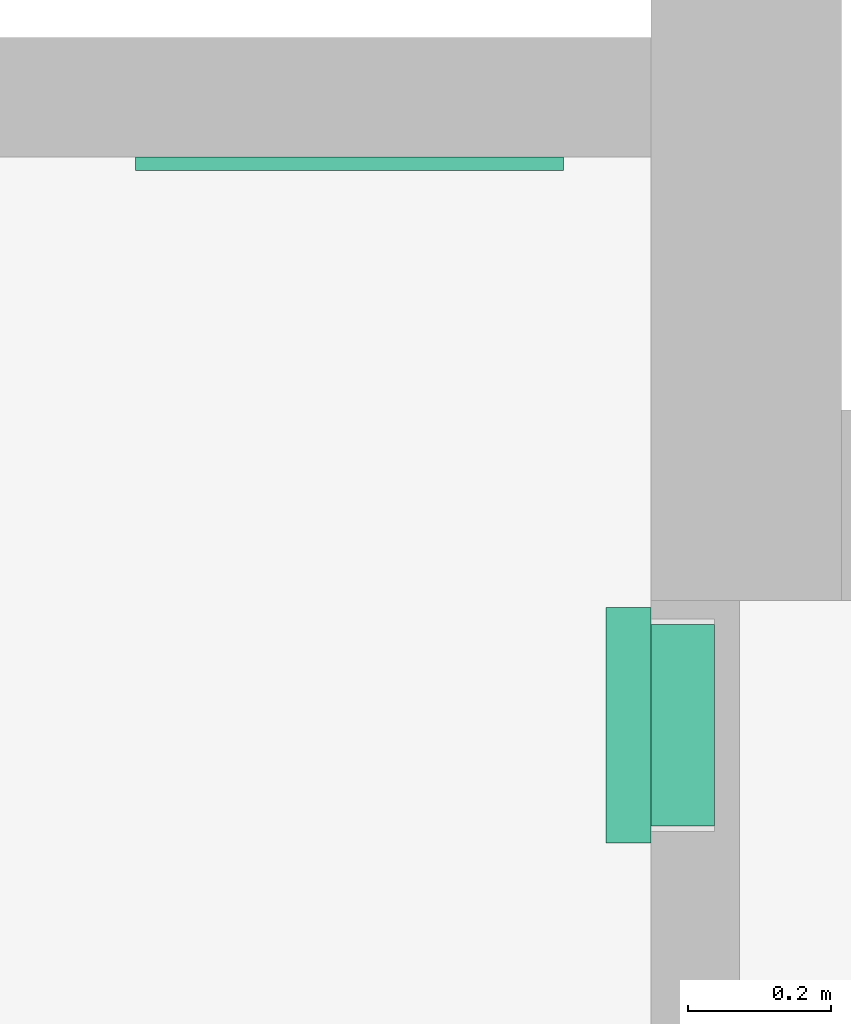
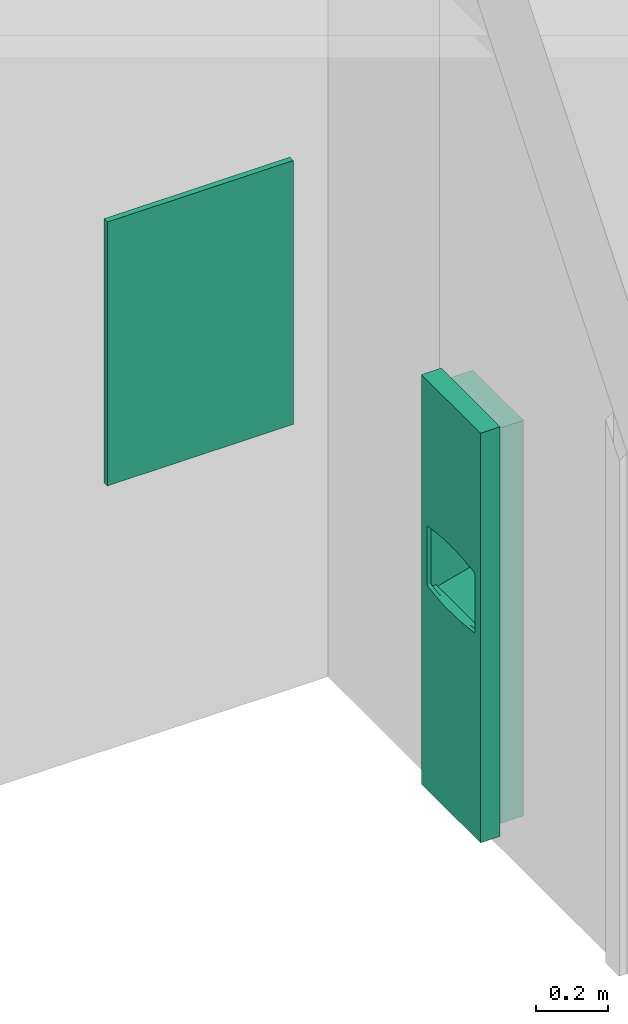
# One storey, part 65 of 82: 2 flow terminals.
"""IFC2X3 building model written with IfcOpenShell, lengths in metres."""

import ifcopenshell
import ifcopenshell.guid

model = None  # the IFC model being written
_history = None  # IfcOwnerHistory: only IFC2X3 demands one
_inside = {}  # id of a spatial element -> (the spatial element, [elements in it])
_under = {}  # id of a project, library or spatial element -> (it, [spatial elements below it])
_declared = {}  # id of a project -> (the project, [libraries it declares])
_typed = {}  # id of a type object -> (the type object, [elements of that type])
_made_of = {}  # id of a material, layer set ... -> (it, [elements and type objects made of it])


def new_model(schema):
    """Start an empty IFC model of exactly this schema.

    Asked for "IFC4X3", IfcOpenShell would pick the latest addendum, in which some entities
    have other attributes; the version numbers below select the first issue.
    IFC2X3 requires an IfcOwnerHistory on every rooted entity: one is made here for all.
    """
    global model, _history
    if schema == "IFC4X3":
        model = ifcopenshell.file(schema_version=(4, 3, 0, 0))
    else:
        model = ifcopenshell.file(schema=schema)
    _inside.clear()
    _under.clear()
    _declared.clear()
    _typed.clear()
    _made_of.clear()
    _history = None
    if model.schema == "IFC2X3":
        org = make("IfcOrganization", Name="unknown")
        user = make(
            "IfcPersonAndOrganization",
            ThePerson=make("IfcPerson", FamilyName="unknown"),
            TheOrganization=org,
        )
        app = make(
            "IfcApplication",
            ApplicationDeveloper=org,
            Version="unknown",
            ApplicationFullName="unknown",
            ApplicationIdentifier="unknown",
        )
        _history = make(
            "IfcOwnerHistory",
            OwningUser=user,
            OwningApplication=app,
            ChangeAction="ADDED",
            CreationDate=0,
        )
    return model


def make(cls, **values):
    """One entity of the class cls with the attributes given. An attribute that is None is left unset."""
    return model.create_entity(
        cls, **{name: value for name, value in values.items() if value is not None}
    )


def entity(cls, *values):
    """Any entity or typed value of the class cls, its attributes in the order of the schema. None: left unset."""
    e = model.create_entity(cls)
    for i, value in enumerate(values):
        if value is not None:
            e[i] = value
    return e


def rooted(cls, **values):
    """An entity with a GlobalId (a new one), such as an element, a storey or a relation."""
    return make(cls, GlobalId=ifcopenshell.guid.new(), OwnerHistory=_history, **values)


def si_unit(unit_type, name, prefix=None):
    """IfcSIUnit, for example si_unit("LENGTHUNIT", "METRE", prefix="MILLI")."""
    return make("IfcSIUnit", UnitType=unit_type, Prefix=prefix, Name=name)


def converted_unit(unit_type, name, factor, base, dimensions=None, offset=None):
    """IfcConversionBasedUnit, such as the inch: factor (a typed value) times the base unit."""
    return make(
        "IfcConversionBasedUnit"
        if offset is None
        else "IfcConversionBasedUnitWithOffset",
        ConversionOffset=offset,
        Dimensions=None
        if dimensions is None
        else entity("IfcDimensionalExponents", *dimensions),
        UnitType=unit_type,
        Name=name,
        ConversionFactor=make(
            "IfcMeasureWithUnit", ValueComponent=factor, UnitComponent=base
        ),
    )


def assignment(units):
    """IfcUnitAssignment: the units of a project."""
    return None if units is None else make("IfcUnitAssignment", Units=units)


def point(xyz):
    """IfcCartesianPoint."""
    return None if xyz is None else make("IfcCartesianPoint", Coordinates=xyz)


def direction(xyz):
    """IfcDirection."""
    return None if xyz is None else make("IfcDirection", DirectionRatios=xyz)


def frame(location, z_axis=None, x_axis=None):
    """IfcAxis2Placement3D, a coordinate frame: its origin and axes. An axis left out is left unset."""
    return make(
        "IfcAxis2Placement3D",
        Location=point(location),
        Axis=direction(z_axis),
        RefDirection=direction(x_axis),
    )


def frame_2d(location, x_axis=None):
    """IfcAxis2Placement2D, a coordinate frame in the plane: its origin and x axis."""
    return make(
        "IfcAxis2Placement2D", Location=point(location), RefDirection=direction(x_axis)
    )


def origin():
    """The frame at (0, 0, 0) with its axes left unset."""
    return frame((0.0, 0.0, 0.0))


def origin_2d_with_axis():
    """The frame at (0, 0) in the plane with the x axis (1, 0) written out."""
    return frame_2d((0.0, 0.0), x_axis=(1.0, 0.0))


def place(relative_to, where):
    """IfcLocalPlacement: puts the frame where relative to a parent placement (None: the world)."""
    return make(
        "IfcLocalPlacement", PlacementRelTo=relative_to, RelativePlacement=where
    )


def context(
    kind, dimensions, precision=None, world=None, true_north=None, identifier=None
):
    """IfcGeometricRepresentationContext, for example the 3D "Model" context."""
    return make(
        "IfcGeometricRepresentationContext",
        ContextIdentifier=identifier,
        ContextType=kind,
        CoordinateSpaceDimension=dimensions,
        Precision=precision,
        WorldCoordinateSystem=world,
        TrueNorth=true_north,
    )


def project(units=None, contexts=None):
    """IfcProject with its units and contexts."""
    return rooted(
        "IfcProject",
        Name="project",
        RepresentationContexts=contexts,
        UnitsInContext=assignment(units),
    )


def spatial(cls, under=None, at=None, **own):
    """A site, building, storey or space (cls), placed at a placement, below another one or the project."""
    s = rooted(cls, ObjectPlacement=at, **own)
    if under is not None:
        _under.setdefault(under.id(), (under, []))[1].append(s)
    return s


def profile(cls, at=None, kind="AREA", **sizes):
    """A parametric profile (cls). Its sizes go by their IFC names, for example OverallWidth=200.0."""
    return make(cls, ProfileType=kind, Position=at, **sizes)


def rectangle(**sizes):
    """IfcRectangleProfileDef."""
    return profile("IfcRectangleProfileDef", **sizes)


def extrude(swept, where, along, depth):
    """IfcExtrudedAreaSolid: the profile swept, set in the frame where, extruded along a direction by depth."""
    return make(
        "IfcExtrudedAreaSolid",
        SweptArea=swept,
        Position=where,
        ExtrudedDirection=direction(along),
        Depth=depth,
    )


def faces_of(points, faces, orient=None, outer=None):
    """IfcFace entities. A face is a list of loops; a loop is a list of indices into points, from 0.

    orient and outer hold one flag for each loop. By default every Orientation is true, the
    first loop of a face is its IfcFaceOuterBound and the others are IfcFaceBound.
    """
    made = []
    for i, loops in enumerate(faces):
        bounds = []
        for j, loop in enumerate(loops):
            is_outer = j == 0 if outer is None else outer[i][j]
            bounds.append(
                make(
                    "IfcFaceOuterBound" if is_outer else "IfcFaceBound",
                    Bound=make("IfcPolyLoop", Polygon=[points[k] for k in loop]),
                    Orientation=True if orient is None else orient[i][j],
                )
            )
        made.append(make("IfcFace", Bounds=bounds))
    return made


def face_set(faces, orient=None, outer=None):
    """The faces of one IfcConnectedFaceSet. surface_model builds it on its shared points."""
    return ("IfcConnectedFaceSet", faces, orient, outer)


def surface_model(cls, points, shells):
    """IfcFaceBasedSurfaceModel or IfcShellBasedSurfaceModel (cls): surfaces that need not close."""
    shared = [point(p) for p in points]
    made = [make(c, CfsFaces=faces_of(shared, fs, o, b)) for c, fs, o, b in shells]
    if cls == "IfcFaceBasedSurfaceModel":
        return make(cls, FbsmFaces=made)
    return make(cls, SbsmBoundary=made)


def shape(context_of_items, identifier, shape_type, items):
    """IfcShapeRepresentation: the items that make up one representation, for example the "Body"."""
    return make(
        "IfcShapeRepresentation",
        ContextOfItems=context_of_items,
        RepresentationIdentifier=identifier,
        RepresentationType=shape_type,
        Items=items,
    )


def source(mapping_origin, context_of_items, identifier, shape_type, items):
    """IfcRepresentationMap: a shape defined once, which mapped items show again and again."""
    return make(
        "IfcRepresentationMap",
        MappingOrigin=mapping_origin,
        MappedRepresentation=shape(context_of_items, identifier, shape_type, items),
    )


def transform(
    local_origin,
    x_axis=None,
    y_axis=None,
    z_axis=None,
    scale=None,
    scale2=None,
    scale3=None,
    uniform=True,
):
    """IfcCartesianTransformationOperator3D, or its non-uniform kind. x_axis, y_axis, z_axis: its Axis1, 2, 3."""
    if uniform:
        return make(
            "IfcCartesianTransformationOperator3D",
            Axis1=direction(x_axis),
            Axis2=direction(y_axis),
            LocalOrigin=point(local_origin),
            Scale=scale,
            Axis3=direction(z_axis),
        )
    return make(
        "IfcCartesianTransformationOperator3DnonUniform",
        Axis1=direction(x_axis),
        Axis2=direction(y_axis),
        LocalOrigin=point(local_origin),
        Scale=scale,
        Axis3=direction(z_axis),
        Scale2=scale2,
        Scale3=scale3,
    )


def mapped(mapping_source, mapping_target):
    """IfcMappedItem: shows the shape of a source again, moved by a transform."""
    return make(
        "IfcMappedItem", MappingSource=mapping_source, MappingTarget=mapping_target
    )


def made_of(thing, what):
    """Note that an element or type object is made of a material, layer set ...; save() writes the relation."""
    if what is not None:
        _made_of.setdefault(what.id(), (what, []))[1].append(thing)
    return thing


def type_object(cls, material=None, **own):
    """A type object (cls), such as IfcWallType, which elements share."""
    return made_of(rooted(cls, **own), material)


def type_shapes(of_type, sources):
    """Give a type object the sources (RepresentationMaps) that its elements show as mapped items."""
    of_type.RepresentationMaps = sources


def element(
    cls,
    number,
    at=None,
    inside=None,
    cuts=None,
    type_object=None,
    material=None,
    context=None,
    identifier="Body",
    shape_type=None,
    held_by="IfcProductDefinitionShape",
    body=None,
    shapes=None,
    **own,
):
    """One element of the class cls, such as IfcWall. Its Tag is "e" and its number.

    at: its placement. inside: the storey or other place that contains it. cuts: it is an
    opening in that element (IfcRelVoidsElement). A single representation is given by context,
    identifier, shape_type and body (its items); several are given by shapes. held_by: the class
    of the entity that holds the representations. save() writes the other relations.
    """
    e = rooted(cls, Tag="e%d" % number, ObjectPlacement=at, **own)
    if body is not None:
        shapes = [shape(context, identifier, shape_type, body)]
    if shapes is not None:
        e.Representation = make(held_by, Representations=shapes)
    if inside is not None:
        _inside.setdefault(inside.id(), (inside, []))[1].append(e)
    if cuts is not None:
        rooted(
            "IfcRelVoidsElement", RelatingBuildingElement=cuts, RelatedOpeningElement=e
        )
    if type_object is not None:
        _typed.setdefault(type_object.id(), (type_object, []))[1].append(e)
    return made_of(e, material)


def aggregate(whole, parts):
    """IfcRelAggregates: a whole, such as a stair, and the parts it consists of."""
    return rooted("IfcRelAggregates", RelatingObject=whole, RelatedObjects=parts)


def save(model, path):
    """Write the relations noted so far, then the file.

    IfcRelAggregates (storeys below a building ...), IfcRelContainedInSpatialStructure (elements
    in a storey), IfcRelDefinesByType, IfcRelAssociatesMaterial and IfcRelDeclares: one each for
    every whole, place, type object, material and project.
    """
    for whole, parts in _under.values():
        aggregate(whole, parts)
    for where, things in _inside.values():
        rooted(
            "IfcRelContainedInSpatialStructure",
            RelatedElements=things,
            RelatingStructure=where,
        )
    for kind, things in _typed.values():
        rooted("IfcRelDefinesByType", RelatedObjects=things, RelatingType=kind)
    for what, things in _made_of.values():
        rooted("IfcRelAssociatesMaterial", RelatedObjects=things, RelatingMaterial=what)
    for by, libraries in _declared.values():
        rooted("IfcRelDeclares", RelatingContext=by, RelatedDefinitions=libraries)
    model.write(path)


model = new_model("IFC2X3")

# Units and contexts
model_context = context("Model", 3, precision=1e-09, world=origin())
plan_context = context("Plan", 3, precision=1e-09, world=origin())
ifc_project = project(units=[si_unit("LENGTHUNIT", "METRE"), si_unit("AREAUNIT", "SQUARE_METRE"), si_unit("VOLUMEUNIT", "CUBIC_METRE"), converted_unit("PLANEANGLEUNIT", "DEGREE", entity("IfcRatioMeasure", 0.01745329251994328), si_unit("PLANEANGLEUNIT", "RADIAN"), dimensions=[0, 0, 0, 0, 0, 0, 0]), si_unit("TIMEUNIT", "SECOND")], contexts=[model_context, plan_context])

# Site, building, storey, space
site_placement = place(None, origin())
site = spatial("IfcSite", under=ifc_project, at=site_placement, Name="Default", CompositionType="ELEMENT")
building_placement = place(site_placement, origin())
building = spatial("IfcBuilding", under=site, at=building_placement, CompositionType="ELEMENT")
storey_placement = place(building_placement, origin())
storey = spatial("IfcBuildingStorey", under=building, at=storey_placement, Name="First Floor", CompositionType="ELEMENT", Elevation=-3.531500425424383e-13)
space_placement = place(storey_placement, origin())
space = spatial("IfcSpace", under=storey, at=space_placement, Name="1C12", CompositionType="ELEMENT", InteriorOrExteriorSpace="INTERNAL")

# Flow terminals
sanitary_terminal_type_1 = type_object("IfcSanitaryTerminalType", Name="Semi-Recessed", PredefinedType="NOTDEFINED")
shared_shape_1 = source(origin(), model_context, "Body", "SurfaceModel", [
    surface_model("IfcFaceBasedSurfaceModel", [(0.3047999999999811, 1.371600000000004, 0.006350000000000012), (0.02539999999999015, 1.371600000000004, 0.006350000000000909), (0.02539999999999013, 0.02540000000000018, 0.006350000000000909), (0.3047999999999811, 0.02540000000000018, 0.006350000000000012), (0.3047999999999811, 1.371600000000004, 0.0), (0.02539999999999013, 1.371600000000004, 0.0), (0.02539999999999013, 0.02540000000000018, 0.0), (0.3047999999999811, 0.02540000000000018, 0.0), (0.3047999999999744, 0.8683625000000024, 0.0314087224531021), (0.304799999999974, 0.8683625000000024, 0.0), (0.304799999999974, 1.371600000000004, 0.0), (0.3047999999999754, 1.371600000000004, 0.1396999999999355), (0.3047999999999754, 0.9274310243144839, 0.139699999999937), (0.3047999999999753, 0.9028355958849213, 0.1191121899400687), (0.304799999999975, 0.8840898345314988, 0.09308548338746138), (0.3047999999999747, 0.8723562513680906, 0.06323391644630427), (0.02539999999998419, 0.8683625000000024, 0.03140872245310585), (0.02539999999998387, 0.8683625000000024, 0.0), (0.02539999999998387, 1.371600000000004, 0.0), (0.02539999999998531, 1.371600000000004, 0.1396999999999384), (0.02539999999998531, 0.9274310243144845, 0.1396999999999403), (0.02539999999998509, 0.9028355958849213, 0.1191121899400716), (0.02539999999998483, 0.8840898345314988, 0.09308548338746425), (0.02539999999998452, 0.8723562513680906, 0.06323391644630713), (0.1650999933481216, 0.8971245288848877, 0.1125374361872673), (0.244423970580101, 0.8850007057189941, 0.0947267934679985), (0.3048000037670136, 0.8934627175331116, 0.1060988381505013), (0.225727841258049, 0.8897196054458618, 0.1024402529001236), (0.1240624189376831, 0.8936511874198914, 0.1080563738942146), (0.1443802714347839, 0.89626145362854, 0.1114614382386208), (0.02539999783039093, 0.8934627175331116, 0.1060988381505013), (0.2975995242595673, 0.8728225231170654, 0.06500939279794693), (0.2961554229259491, 0.8724397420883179, 0.06352298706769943), (0.08576729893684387, 0.8849983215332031, 0.09472260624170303), (0.05923719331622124, 0.8781034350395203, 0.0805450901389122), (0.06810294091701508, 0.8800443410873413, 0.08500713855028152), (0.02539999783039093, 0.8811564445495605, 0.08562259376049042), (0.03954862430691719, 0.8766331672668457, 0.07681932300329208), (0.04958875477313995, 0.8769928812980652, 0.07776296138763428), (0.02539999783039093, 0.8782230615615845, 0.07815969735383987), (0.03264534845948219, 0.875198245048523, 0.07281118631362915), (0.02539999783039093, 0.8767563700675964, 0.0744282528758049), (0.02539999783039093, 0.87602299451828, 0.07256253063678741), (0.2946777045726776, 0.8762261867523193, 0.07572414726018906), (0.3048000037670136, 0.8767563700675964, 0.0744282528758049), (0.3048000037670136, 0.8774896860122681, 0.07629397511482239), (0.2906513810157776, 0.8717893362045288, 0.0609215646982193), (0.3048000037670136, 0.871357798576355, 0.05527761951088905), (0.3048000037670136, 0.8718570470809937, 0.05925576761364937), (0.02539999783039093, 0.874556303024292, 0.06883108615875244), (0.03170676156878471, 0.8735430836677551, 0.0675705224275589), (0.03171554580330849, 0.8739543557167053, 0.06892137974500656), (0.104461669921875, 0.889717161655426, 0.1024366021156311), (0.02539999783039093, 0.8752896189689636, 0.07069680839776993), (0.03172433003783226, 0.8743656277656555, 0.07027223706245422), (0.03218483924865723, 0.8747819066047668, 0.07154171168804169), (0.185808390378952, 0.8962624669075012, 0.1114626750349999), (0.3048000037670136, 0.8703593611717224, 0.04732131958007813), (0.2280749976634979, 0.8709259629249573, 0.05697767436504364), (0.2061262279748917, 0.8936530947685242, 0.1080589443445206), (0.3048000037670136, 0.8752896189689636, 0.07069680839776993), (0.297547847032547, 0.8752022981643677, 0.07282306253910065), (0.2980738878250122, 0.8745774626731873, 0.0708826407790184), (0.2985999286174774, 0.8739525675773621, 0.06894221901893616), (0.3048000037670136, 0.874556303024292, 0.06883108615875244), (0.2709419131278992, 0.8781068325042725, 0.08055329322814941), (0.3048000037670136, 0.8811564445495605, 0.08562259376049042), (0.2620970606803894, 0.8800443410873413, 0.08500713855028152), (0.2805894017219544, 0.8769944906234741, 0.07776710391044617), (0.3048000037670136, 0.8782230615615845, 0.07815969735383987), (0.03435983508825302, 0.8722586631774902, 0.06284872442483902), (0.02539999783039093, 0.872106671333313, 0.06124484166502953), (0.0367727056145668, 0.8719081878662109, 0.06142202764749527), (0.2906513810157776, 0.8766331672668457, 0.07681932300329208), (0.02539999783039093, 0.8718570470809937, 0.05925576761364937), (0.3048000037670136, 0.8738229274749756, 0.06696536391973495), (0.2980997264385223, 0.8733875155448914, 0.06697580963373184), (0.3048000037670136, 0.872106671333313, 0.06124484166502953), (0.2947112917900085, 0.8720570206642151, 0.06203658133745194), (0.02539999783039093, 0.8738229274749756, 0.06696536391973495), (0.3048000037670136, 0.873089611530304, 0.06509964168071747), (0.02539999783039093, 0.8774896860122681, 0.07629397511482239), (0.03438528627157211, 0.8759323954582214, 0.07491400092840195), (0.03677724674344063, 0.8764464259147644, 0.07632055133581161), (0.03261014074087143, 0.8728178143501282, 0.0649920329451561), (0.02539999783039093, 0.8703593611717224, 0.04732131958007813), (0.1650999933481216, 0.8683624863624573, 0.03140872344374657), (0.03954862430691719, 0.8717893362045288, 0.0609215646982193), (0.1021250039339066, 0.8709259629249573, 0.05697767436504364), (0.02539999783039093, 0.871357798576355, 0.05527761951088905), (0.02539999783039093, 0.873089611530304, 0.06509964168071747), (0.2961127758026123, 0.8757142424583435, 0.07427360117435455), (0.3048000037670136, 0.87602299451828, 0.07256253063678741), (0.1650999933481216, 0.8701865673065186, 0.05300865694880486), (0.03954862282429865, 0.9617593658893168, 0.06092156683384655), (0.1650999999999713, 0.9617593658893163, 0.05300865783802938), (0.2906513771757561, 0.9617593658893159, 0.06092156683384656), (0.2927086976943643, 0.9617593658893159, 0.06119241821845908), (0.2946258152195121, 0.9617593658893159, 0.06198651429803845), (0.2962720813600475, 0.9617593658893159, 0.06324973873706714), (0.2975353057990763, 0.9617593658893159, 0.06489600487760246), (0.2983294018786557, 0.9617593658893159, 0.06681312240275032), (0.2986002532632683, 0.9617593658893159, 0.06887044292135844), (0.2983294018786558, 0.9617593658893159, 0.07092776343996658), (0.2975353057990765, 0.9617593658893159, 0.0728448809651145), (0.2962720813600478, 0.9617593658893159, 0.07449114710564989), (0.2946258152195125, 0.9617593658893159, 0.07575437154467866), (0.2927086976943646, 0.9617593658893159, 0.07654846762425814), (0.2906513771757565, 0.9617593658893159, 0.07681931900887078), (0.2806776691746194, 0.9617593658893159, 0.07775040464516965), (0.2710486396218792, 0.9617593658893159, 0.0805114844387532), (0.2620970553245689, 0.9617593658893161, 0.0850071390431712), (0.2316919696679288, 0.9617593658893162, 0.1002429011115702), (0.1989754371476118, 0.9617593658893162, 0.1095287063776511), (0.1651000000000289, 0.9617593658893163, 0.1125374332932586), (0.1312245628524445, 0.9617593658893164, 0.109528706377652), (0.09850803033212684, 0.9617593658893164, 0.1002429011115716), (0.06810294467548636, 0.9617593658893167, 0.08500713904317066), (0.05915136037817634, 0.9617593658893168, 0.08051148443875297), (0.04952233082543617, 0.9617593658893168, 0.07775040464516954), (0.03954862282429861, 0.9617593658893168, 0.07681931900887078), (0.03749130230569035, 0.9617593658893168, 0.0765484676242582), (0.03557418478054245, 0.9617593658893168, 0.07575437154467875), (0.03392791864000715, 0.9617593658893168, 0.07449114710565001), (0.03266469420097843, 0.9617593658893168, 0.07284488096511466), (0.03187059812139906, 0.9617593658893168, 0.07092776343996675), (0.03159974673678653, 0.9617593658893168, 0.06887044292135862), (0.03187059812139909, 0.9617593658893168, 0.06681312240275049), (0.03266469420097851, 0.9617593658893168, 0.0648960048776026), (0.03392791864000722, 0.9617593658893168, 0.06324973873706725), (0.03557418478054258, 0.9617593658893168, 0.06198651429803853), (0.03749130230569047, 0.9617593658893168, 0.06119241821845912), (0.3302000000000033, 1.397000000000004, 0.1523999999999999), (0.0, 1.397000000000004, 0.152400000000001), (0.0, 0.0, 0.152400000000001), (0.3302000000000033, 0.0, 0.1523999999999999), (0.03175000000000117, 0.7016793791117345, 0.1524000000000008), (0.03175000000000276, 0.8960819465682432, 0.1524000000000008), (0.03192255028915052, 0.8975521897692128, 0.1524000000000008), (0.03243082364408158, 0.8989425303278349, 0.1524000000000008), (0.03324719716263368, 0.9001774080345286, 0.1524000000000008), (0.03432730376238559, 0.9011897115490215, 0.1524000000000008), (0.03561244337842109, 0.9019244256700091, 0.1524000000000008), (0.03703277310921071, 0.9023416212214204, 0.1524000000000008), (0.1222300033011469, 0.9119737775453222, 0.1524000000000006), (0.2079699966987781, 0.911973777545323, 0.1524000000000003), (0.2931672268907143, 0.902341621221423, 0.1524), (0.2945875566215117, 0.9019244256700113, 0.1524), (0.2958726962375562, 0.9011897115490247, 0.1524), (0.2969528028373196, 0.9001774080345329, 0.1524), (0.297769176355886, 0.8989425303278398, 0.1524), (0.2982774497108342, 0.8975521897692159, 0.1524), (0.2984500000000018, 0.8960819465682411, 0.1524), (0.2984500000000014, 0.7016793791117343, 0.1524), (0.2982774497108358, 0.7002091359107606, 0.1524), (0.2977691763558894, 0.6988187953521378, 0.1524), (0.2969528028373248, 0.697583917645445, 0.1524), (0.2958726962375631, 0.6965716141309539, 0.1524), (0.29458755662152, 0.6958369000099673, 0.1524), (0.2931672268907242, 0.6954197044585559, 0.1524), (0.2079699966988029, 0.6857875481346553, 0.1524000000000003), (0.1222300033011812, 0.6857875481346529, 0.1524000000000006), (0.03703277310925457, 0.6954197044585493, 0.1524000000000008), (0.03561244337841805, 0.6958369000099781, 0.1524000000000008), (0.0343273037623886, 0.6965716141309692, 0.1524000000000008), (0.03324719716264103, 0.6975839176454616, 0.1524000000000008), (0.03243082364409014, 0.698818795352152, 0.1524000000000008), (0.03192255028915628, 0.7002091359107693, 0.1524000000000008), (0.3063874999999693, 1.373187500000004, 0.0), (0.02381249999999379, 1.373187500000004, 0.0), (0.02381249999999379, 0.02381250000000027, 0.0), (0.3063874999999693, 0.02381250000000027, 0.0), (0.3047999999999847, 1.371600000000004, 0.0), (0.3047999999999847, 0.02540000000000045, 0.0), (0.02539999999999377, 0.02540000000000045, 0.0), (0.02539999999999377, 1.371600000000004, 0.0), (0.304799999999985, 1.371600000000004, 0.08889999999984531), (0.3047999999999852, 1.371600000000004, 0.1396999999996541), (0.3047999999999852, 0.02540000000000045, 0.1396999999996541), (0.304799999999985, 0.02540000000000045, 0.08889999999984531), (0.02539999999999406, 0.02540000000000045, 0.08889999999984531), (0.02539999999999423, 0.02540000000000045, 0.139699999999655), (0.02539999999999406, 1.371600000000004, 0.08889999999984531), (0.02539999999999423, 1.371600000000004, 0.139699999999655), (0.02381249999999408, 1.373187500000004, 0.08889999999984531), (0.3063874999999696, 1.373187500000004, 0.08889999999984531), (0.02381249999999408, 0.02381250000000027, 0.08889999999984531), (0.3063874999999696, 0.02381250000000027, 0.08889999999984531), (0.3302000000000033, 1.397000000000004, 0.08889999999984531), (0.0, 1.397000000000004, 0.08889999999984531), (0.0, 0.0, 0.08889999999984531), (0.3302000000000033, 0.0, 0.08889999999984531), (0.3302000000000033, 1.397000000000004, 0.1396999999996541), (0.0, 1.397000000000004, 0.1396999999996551), (0.0, 0.0, 0.1396999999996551), (0.3302000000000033, 0.0, 0.1396999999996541), (0.0317500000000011, 0.7016793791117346, 0.139699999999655), (0.03175000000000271, 0.8960819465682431, 0.139699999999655), (0.03192255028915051, 0.8975521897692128, 0.139699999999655), (0.03243082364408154, 0.8989425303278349, 0.139699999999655), (0.03324719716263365, 0.9001774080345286, 0.139699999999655), (0.03432730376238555, 0.9011897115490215, 0.139699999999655), (0.03561244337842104, 0.9019244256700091, 0.139699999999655), (0.03703277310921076, 0.9023416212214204, 0.139699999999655), (0.1222300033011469, 0.9119737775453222, 0.1396999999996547), (0.207969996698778, 0.911973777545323, 0.1396999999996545), (0.2931672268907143, 0.902341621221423, 0.1396999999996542), (0.2945875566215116, 0.9019244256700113, 0.1396999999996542), (0.2958726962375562, 0.9011897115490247, 0.1396999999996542), (0.2969528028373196, 0.9001774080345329, 0.1396999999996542), (0.2977691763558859, 0.8989425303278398, 0.1396999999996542), (0.2982774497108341, 0.8975521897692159, 0.1396999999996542), (0.2984500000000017, 0.8960819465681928, 0.1396999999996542), (0.2984500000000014, 0.7016793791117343, 0.1396999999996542), (0.2982774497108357, 0.7002091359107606, 0.1396999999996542), (0.2977691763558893, 0.6988187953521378, 0.1396999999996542), (0.2969528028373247, 0.697583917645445, 0.1396999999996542), (0.295872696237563, 0.6965716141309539, 0.1396999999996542), (0.29458755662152, 0.6958369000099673, 0.1396999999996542), (0.2931672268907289, 0.6954197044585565, 0.1396999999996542), (0.2079699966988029, 0.6857875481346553, 0.1396999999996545), (0.1222300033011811, 0.6857875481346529, 0.1396999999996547), (0.0370327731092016, 0.6954197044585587, 0.139699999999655), (0.03561244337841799, 0.6958369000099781, 0.139699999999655), (0.03432730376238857, 0.6965716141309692, 0.139699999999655), (0.03324719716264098, 0.6975839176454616, 0.139699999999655), (0.03243082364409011, 0.698818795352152, 0.139699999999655), (0.03192255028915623, 0.7002091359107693, 0.139699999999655), (0.02698749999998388, 0.6774923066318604, 0.1206361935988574), (0.02698749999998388, 0.6858000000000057, 0.1206361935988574), (0.02698749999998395, 0.6858000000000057, 0.1397000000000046), (0.02698749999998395, 0.0253999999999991, 0.1397000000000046), (0.02698749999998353, 0.0253999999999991, 0.007937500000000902), (0.02698749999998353, 0.7076898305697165, 0.007937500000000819), (0.3032124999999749, 0.6774923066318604, 0.1206361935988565), (0.3032124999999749, 0.6858000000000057, 0.1206361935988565), (0.3032124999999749, 0.6858000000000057, 0.1397000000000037), (0.3032124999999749, 0.0253999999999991, 0.1397000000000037), (0.3032124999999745, 0.0253999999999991, 0.007937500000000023), (0.3032124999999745, 0.7076898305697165, 0.007937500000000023)], [face_set([[[0, 1, 2, 3]], [[4, 5, 6, 7]], [[1, 0, 4, 5]], [[2, 6, 5, 1]], [[3, 7, 6, 2]], [[0, 3, 7, 4]]]), face_set([[[8, 9, 10, 11, 12, 13, 14, 15]], [[16, 17, 18, 19, 20, 21, 22, 23]], [[9, 8, 16, 17]], [[10, 18, 17, 9]], [[11, 19, 18, 10]], [[12, 11, 19, 20]], [[24, 20, 21]], [[25, 26, 27]], [[28, 29, 21]], [[28, 21, 30]], [[15, 31, 32]], [[22, 33, 30]], [[24, 21, 29]], [[34, 35, 36]], [[37, 38, 39]], [[40, 41, 42]], [[39, 38, 34]], [[22, 35, 33]], [[39, 34, 36]], [[43, 44, 45]], [[46, 47, 48]], [[49, 50, 51]], [[33, 52, 30]], [[53, 54, 55]], [[24, 56, 13]], [[57, 47, 58]], [[24, 13, 12]], [[13, 56, 59]], [[59, 27, 26]], [[60, 61, 62]], [[62, 63, 64]], [[24, 12, 20]], [[55, 42, 53]], [[65, 66, 67]], [[25, 67, 14]], [[25, 14, 26]], [[65, 68, 69]], [[66, 65, 69]], [[70, 71, 72]], [[69, 68, 73]], [[72, 71, 74]], [[26, 13, 59]], [[54, 53, 49]], [[64, 60, 62]], [[75, 63, 76]], [[46, 77, 78]], [[79, 50, 49]], [[80, 76, 31]], [[39, 81, 37]], [[41, 82, 81]], [[49, 51, 54]], [[81, 82, 83]], [[40, 82, 41]], [[70, 84, 23]], [[84, 50, 79]], [[85, 16, 86]], [[28, 30, 52]], [[70, 23, 71]], [[87, 72, 74]], [[85, 88, 89]], [[87, 89, 88]], [[74, 89, 87]], [[84, 90, 23]], [[58, 47, 46]], [[35, 22, 36]], [[63, 75, 64]], [[91, 61, 92]], [[45, 73, 43]], [[80, 75, 76]], [[61, 60, 92]], [[15, 32, 78]], [[45, 69, 73]], [[92, 44, 91]], [[66, 14, 67]], [[84, 79, 90]], [[85, 93, 88]], [[86, 57, 93]], [[31, 15, 80]], [[77, 15, 78]], [[42, 55, 40]], [[58, 93, 57]], [[77, 46, 48]], [[8, 57, 86]], [[37, 81, 83]], [[44, 43, 91]], [[85, 86, 93]], [[94, 95, 96, 97, 98, 99, 100, 101, 102, 103, 104, 105, 106, 107, 108, 109, 110, 111, 112, 113, 114, 115, 116, 117, 118, 119, 120, 121, 122, 123, 124, 125, 126, 127, 128, 129, 130, 131]], [[95, 94, 87, 88, 93]], [[96, 95, 93, 58, 46]], [[46, 96, 97]], [[78, 98, 99]], [[97, 98, 78]], [[99, 100, 31]], [[46, 97, 78]], [[63, 31, 101]], [[31, 78, 99]], [[63, 101, 102]], [[101, 31, 100]], [[61, 104, 105]], [[43, 106, 107]], [[105, 106, 43]], [[73, 107, 108]], [[63, 103, 61]], [[103, 63, 102]], [[61, 103, 104]], [[61, 105, 43]], [[107, 73, 43]], [[108, 68, 73]], [[68, 108, 109]], [[109, 65, 68]], [[110, 67, 65]], [[67, 110, 111]], [[109, 110, 65]], [[111, 112, 25]], [[25, 67, 111]], [[27, 25, 112]], [[112, 59, 27]], [[113, 114, 56]], [[56, 59, 113]], [[24, 56, 114]], [[113, 59, 112]], [[114, 115, 29]], [[29, 24, 114]], [[28, 29, 115]], [[115, 116, 28]], [[116, 117, 33]], [[33, 52, 116]], [[35, 33, 117]], [[116, 52, 28]], [[118, 34, 35]], [[35, 117, 118]], [[118, 119, 34]], [[120, 37, 38]], [[38, 119, 120]], [[34, 119, 38]], [[37, 120, 121]], [[82, 122, 123]], [[121, 122, 83]], [[123, 124, 40]], [[37, 121, 83]], [[83, 122, 82]], [[40, 125, 54]], [[40, 82, 123]], [[54, 125, 126]], [[40, 124, 125]], [[84, 127, 128]], [[129, 84, 128]], [[72, 130, 131]], [[129, 130, 70]], [[87, 131, 94]], [[127, 50, 126]], [[127, 84, 50]], [[126, 50, 54]], [[70, 84, 129]], [[130, 72, 70]], [[131, 87, 72]]]), face_set([[[132, 133, 134, 135], [136, 137, 138, 139, 140, 141, 142, 143, 144, 145, 146, 147, 148, 149, 150, 151, 152, 153, 154, 155, 156, 157, 158, 159, 160, 161, 162, 163, 164, 165, 166, 167]], [[168, 169, 170, 171], [172, 173, 174, 175]], [[172, 176, 177, 178, 179, 173]], [[173, 174, 180, 181, 178, 179]], [[174, 175, 182, 183, 181, 180]], [[175, 182, 183, 177, 176, 172]], [[168, 169, 184, 185]], [[169, 184, 186, 170]], [[170, 186, 187, 171]], [[171, 168, 185, 187]], [[188, 189, 190, 191], [185, 187, 186, 184]], [[133, 132, 192, 188, 189, 193]], [[134, 133, 193, 189, 190, 194]], [[135, 134, 194, 190, 191, 195]], [[132, 135, 195, 191, 188, 192]], [[177, 183, 181, 178], [196, 197, 198, 199, 200, 201, 202, 203, 204, 205, 206, 207, 208, 209, 210, 211, 212, 213, 214, 215, 216, 217, 218, 219, 220, 221, 222, 223, 224, 225, 226, 227]], [[137, 136, 196, 197]], [[198, 197, 137, 138]], [[199, 198, 138, 139]], [[139, 140, 200, 199]], [[202, 201, 141, 142]], [[203, 202, 142, 143]], [[140, 141, 201, 200]], [[203, 143, 144, 204]], [[145, 205, 204, 144]], [[205, 145, 146, 206]], [[207, 206, 146, 147]], [[208, 207, 147, 148]], [[148, 149, 209, 208]], [[212, 211, 151, 152]], [[211, 210, 150, 151]], [[149, 150, 210, 209]], [[153, 213, 212, 152]], [[214, 213, 153, 154]], [[215, 214, 154, 155]], [[155, 156, 216, 215]], [[218, 217, 157, 158]], [[219, 218, 158, 159]], [[156, 157, 217, 216]], [[219, 159, 160, 220]], [[161, 221, 220, 160]], [[221, 161, 162, 222]], [[223, 222, 162, 163]], [[224, 223, 163, 164]], [[164, 165, 225, 224]], [[227, 226, 166, 167]], [[196, 227, 167, 136]], [[165, 166, 226, 225]]]), face_set([[[228, 229, 230, 231, 232, 233]], [[234, 235, 236, 237, 238, 239]], [[233, 228, 234, 239]], [[232, 238, 239, 233]], [[231, 237, 238, 232]], [[230, 231, 237, 236]], [[229, 230, 236, 235]], [[228, 234, 235, 229]]])]),
])
type_shapes(sanitary_terminal_type_1, [shared_shape_1])
flow_terminal_1_placement = place(space_placement, frame((-40.44810000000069, 55.27819999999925, 0.03869999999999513), z_axis=(-1.0, 0.0, 0.0), x_axis=(0.0, -1.0, 0.0)))
element("IfcFlowTerminal", 1, at=flow_terminal_1_placement, inside=space, type_object=sanitary_terminal_type_1, Name="M_Towel Dispensers - receptical:Semi-Recessed:Semi-Recessed", ObjectType="Semi-Recessed", context=model_context, shape_type="MappedRepresentation", body=[
    mapped(shared_shape_1, transform((0.0, 0.0, 0.0), scale=1.0)),
])
sanitary_terminal_type_2 = type_object("IfcSanitaryTerminalType", Name="Mirror 600mm x 900mm", PredefinedType="NOTDEFINED")
shared_shape_2 = source(origin(), model_context, "Body", "SweptSolid", [
    extrude(rectangle(XDim=0.01905, YDim=0.5999999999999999, at=origin_2d_with_axis()), frame((0.02447030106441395, 0.093525, 1.0), z_axis=(0.0, 0.0, 1.0), x_axis=(0.0, -1.0, 0.0)), (0.0, 0.0, 1.0), 0.8999999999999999),
])
type_shapes(sanitary_terminal_type_2, [shared_shape_2])
flow_terminal_2_placement = place(space_placement, frame((-40.93552969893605, 55.99399999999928, -0.08500000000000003), z_axis=(0.0, 0.0, 1.0), x_axis=(-1.0, 0.0, 0.0)))
element("IfcFlowTerminal", 2, at=flow_terminal_2_placement, inside=space, type_object=sanitary_terminal_type_2, Name="M_Mirror:Mirror 600mm x 900mm:Mirror 600mm x 900mm", ObjectType="Mirror 600mm x 900mm", context=model_context, shape_type="MappedRepresentation", body=[
    mapped(shared_shape_2, transform((0.0, 0.0, 0.0), scale=1.0)),
])

save(model, "model.ifc")
